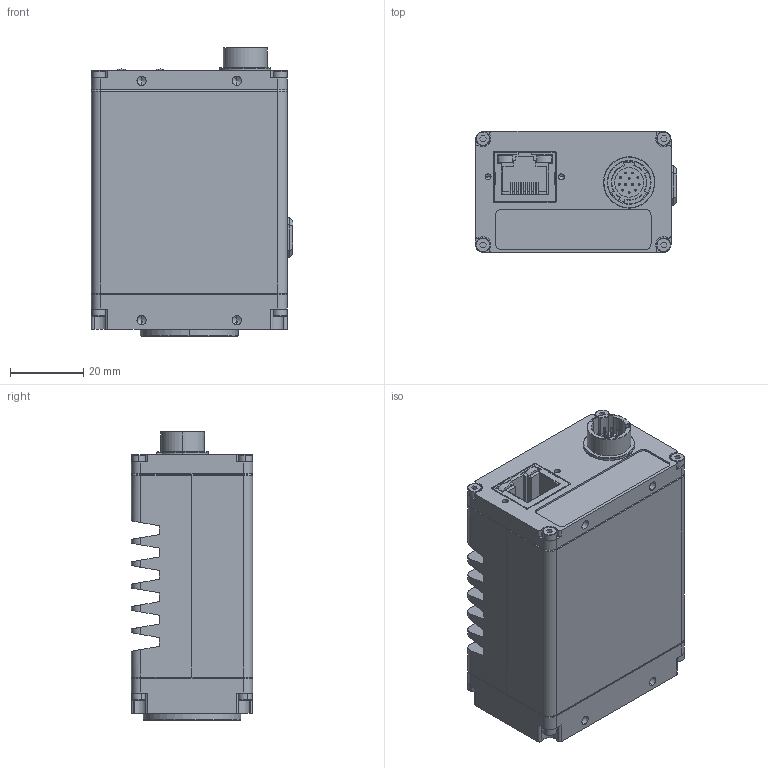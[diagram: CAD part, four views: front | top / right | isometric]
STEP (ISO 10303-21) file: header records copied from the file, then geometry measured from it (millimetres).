
FILE_DESCRIPTION (( 'STEP AP214' ), '1' );
FILE_NAME ('GT2460 CS-MOUNT.STEP', '2018-01-12T21:11:44', ( '' ), ( '' ), 'SwSTEP 2.0', 'SolidWorks 2017', '' );
FILE_SCHEMA (( 'AUTOMOTIVE_DESIGN' ));
Length unit declared in the file: millimetre
Products named in the file (3): GT2460 CS-MOUNT; CS-MOUNT RING; GT BODY ASSY SHORT - defeatured_GT2460
Assembly tree (2 placements, depth 2):
  GT2460 CS-MOUNT
    GT BODY ASSY SHORT - defeatured_GT2460
    CS-MOUNT RING
Bounding box: 54.84 x 33.02 x 78.74 mm (x, y, z)
Volume: 97782.8 mm3; surface area: 33266.5 mm2
Topology: 2 solids, 14 shells, 1197 faces, 3137 edges, 1965 vertices
Faces by surface type: plane 677, cylinder 315, cone 146, torus 35, sphere 24
Entity records: 45000 total; most frequent: CARTESIAN_POINT 6680, DIRECTION 6171, ORIENTED_EDGE 6090, EDGE_CURVE 3045, VECTOR 2203, LINE 2203, AXIS2_PLACEMENT_3D 1984, VERTEX_POINT 1941
